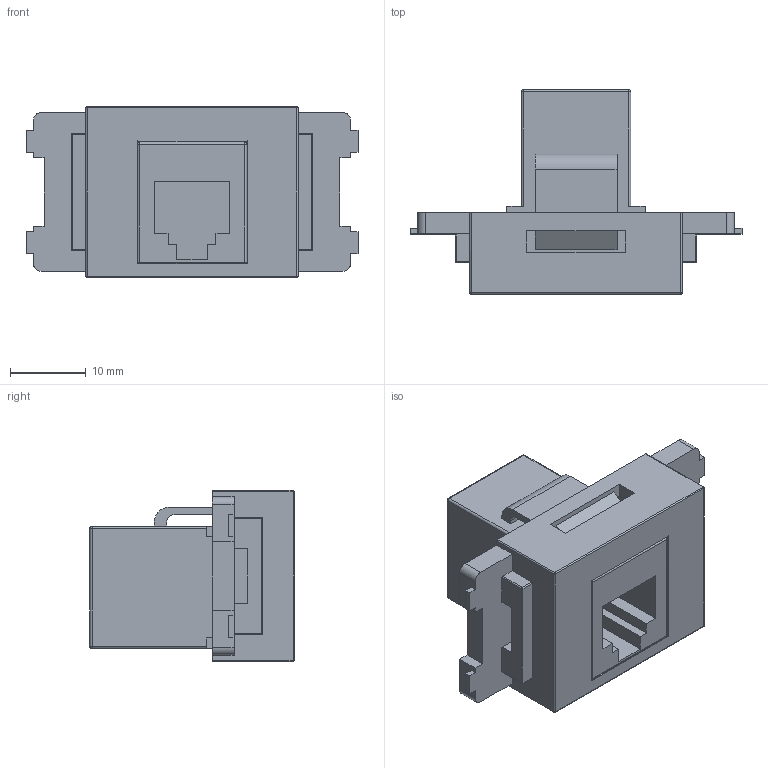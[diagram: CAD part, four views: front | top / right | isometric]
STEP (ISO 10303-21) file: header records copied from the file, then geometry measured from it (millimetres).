
FILE_DESCRIPTION(('FreeCAD Model'),'2;1');
FILE_NAME('Open CASCADE Shape Model','2026-05-11T14:56:12',(''),(''), 'Open CASCADE STEP processor 7.8','FreeCAD','Unknown');
FILE_SCHEMA(('AUTOMOTIVE_DESIGN { 1 0 10303 214 1 1 1 1 }'));
Length unit declared in the file: millimetre
Products named in the file (3): CC_RJ12_BK_KH; SY-NWT-KH-xx; FA-396-6-BK
Assembly tree (2 placements, depth 2):
  CC_RJ12_BK_KH
    SY-NWT-KH-xx
    FA-396-6-BK
Bounding box: 43.95 x 27.05 x 22.65 mm (x, y, z)
Volume: 7513.6 mm3; surface area: 7559.3 mm2
Topology: 2 solids, 2 shells, 198 faces, 548 edges, 346 vertices
Faces by surface type: bspline 111, plane 61, cylinder 18, sphere 8
Entity records: 7596 total; most frequent: CARTESIAN_POINT 3481, ORIENTED_EDGE 1080, EDGE_CURVE 540, DIRECTION 443, VERTEX_POINT 346, B_SPLINE_CURVE_WITH_KNOTS 313, FACE_BOUND 208, EDGE_LOOP 208
